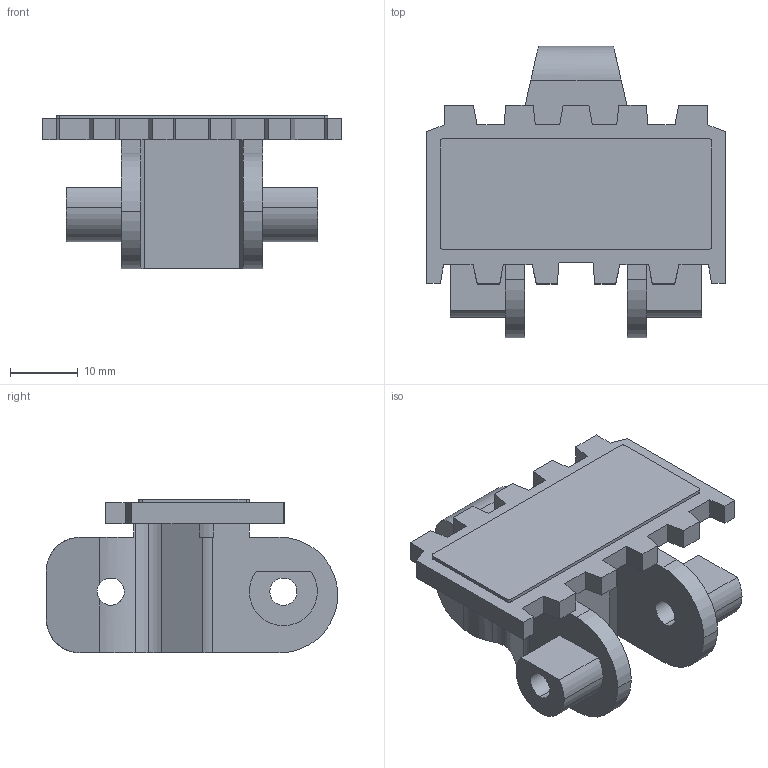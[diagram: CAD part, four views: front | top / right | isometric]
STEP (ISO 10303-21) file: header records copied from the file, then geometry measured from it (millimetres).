
FILE_DESCRIPTION (( 'STEP AP214' ), '1' );
FILE_NAME ('FKFT-5.STEP', '2012-03-20T09:05:17', ( 'gs' ), ( 'Microsoft' ), 'SwSTEP 2.0', 'SolidWorks 2011', '' );
FILE_SCHEMA (( 'AUTOMOTIVE_DESIGN' ));
Length unit declared in the file: millimetre
Products named in the file (1): FKFT-5
Bounding box: 44 x 42.9 x 22.6 mm (x, y, z)
Volume: 11937.4 mm3; surface area: 6645.7 mm2
Topology: 1 solids, 1 shells, 109 faces, 313 edges, 208 vertices
Faces by surface type: plane 76, cylinder 33
Entity records: 3675 total; most frequent: CARTESIAN_POINT 741, ORIENTED_EDGE 626, DIRECTION 579, EDGE_CURVE 313, LINE 243, VECTOR 243, VERTEX_POINT 208, AXIS2_PLACEMENT_3D 168
